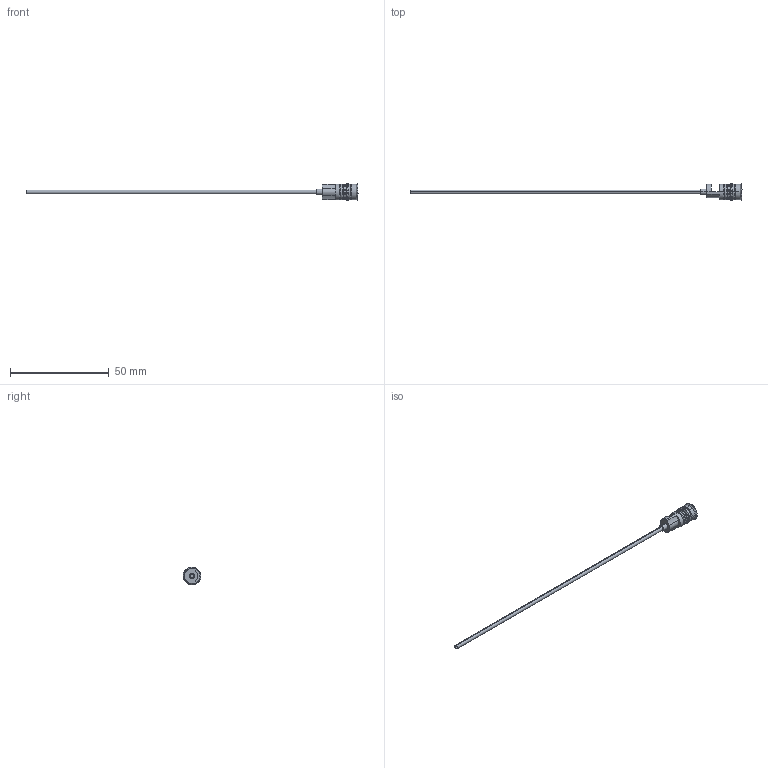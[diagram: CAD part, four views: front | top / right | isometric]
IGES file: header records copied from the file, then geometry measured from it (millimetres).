
Start section: START RECORD GO HERE.
Global section: file name: RF-8Fx150_2.igs; native system: DASSAULT SYSTEMES CATIA V5 R20 - www.3ds.com; preprocessor: CATIA Version 5 Release 20 ; author: Utente; organization: NB04-ASUS; date: 20210223.203008; units: millimetre
Bounding box: 168 x 9 x 9 mm (x, y, z)
Surface area: 2481.1 mm2 (no closed solid volume)
Topology: 0 solids, 0 shells, 78 faces, 432 edges, 432 vertices
Faces by surface type: revolution 53, plane 25
